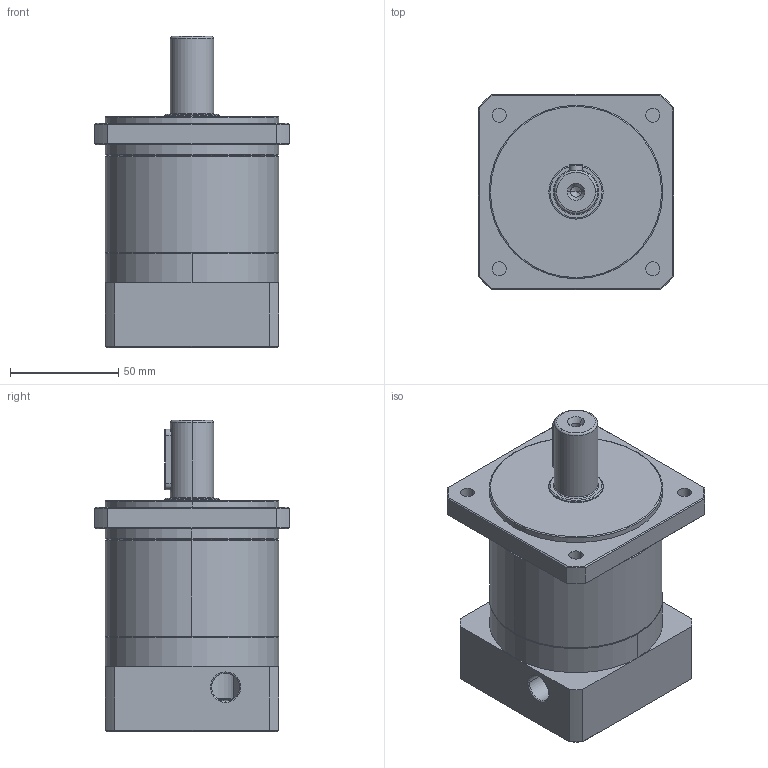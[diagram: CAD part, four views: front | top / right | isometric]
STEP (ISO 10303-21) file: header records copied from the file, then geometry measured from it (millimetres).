
FILE_DESCRIPTION (( 'STEP AP214' ), '1' );
FILE_NAME ('6.0030 PF80-5-19×40-70-90M5.STEP', '2026-02-13T09:13:01', ( '' ), ( '' ), 'SwSTEP 2.0', 'SolidWorks 2025', '' );
FILE_SCHEMA (( 'AUTOMOTIVE_DESIGN' ));
Length unit declared in the file: millimetre
Products named in the file (1): 6.0030 PF80-5-19×40-70-90M5
Bounding box: 90 x 90 x 143.5 mm (x, y, z)
Volume: 547776.4 mm3; surface area: 63073.7 mm2
Topology: 1 solids, 1 shells, 176 faces, 405 edges, 236 vertices
Faces by surface type: cylinder 65, cone 49, plane 43, torus 19
Entity records: 7223 total; most frequent: CARTESIAN_POINT 1242, DIRECTION 906, ORIENTED_EDGE 790, EDGE_CURVE 395, AXIS2_PLACEMENT_3D 376, VERTEX_POINT 236, EDGE_LOOP 207, CIRCLE 199
